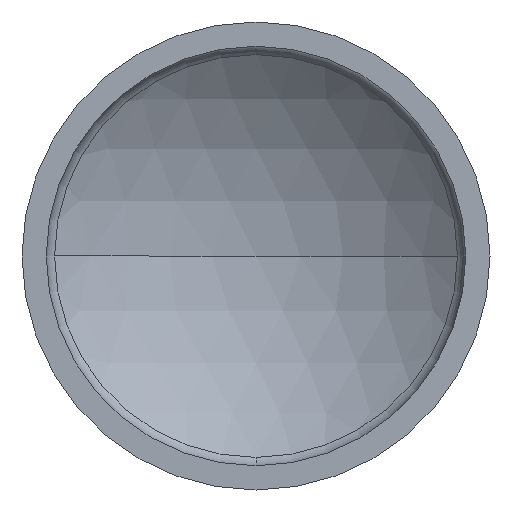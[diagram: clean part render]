
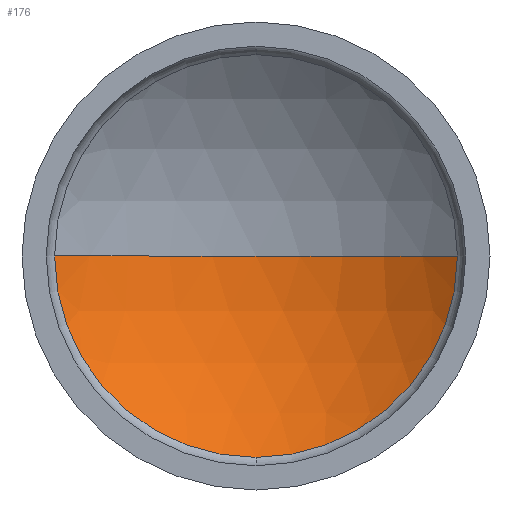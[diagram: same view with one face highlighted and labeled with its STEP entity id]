
A CAD part, front view. The second image highlights one B-rep face of the part: STEP entity #176.
In plain terms, the highlighted spherical face has radius 20.85 mm.
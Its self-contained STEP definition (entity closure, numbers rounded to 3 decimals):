
#27 = ORIENTED_EDGE ( 'NONE', *, *, #333, .T. ) ;
#28 = VERTEX_POINT ( 'NONE', #491 ) ;
#29 = VERTEX_POINT ( 'NONE', #183 ) ;
#40 = AXIS2_PLACEMENT_3D ( 'NONE', #145, #364, #527 ) ;
#48 = ORIENTED_EDGE ( 'NONE', *, *, #210, .T. ) ;
#66 = AXIS2_PLACEMENT_3D ( 'NONE', #408, #152, #405 ) ;
#81 = CARTESIAN_POINT ( 'NONE',  ( 0., -9.8, 0. ) ) ;
#97 = CIRCLE ( 'NONE', #373, 13.683 ) ;
#116 = VERTEX_POINT ( 'NONE', #449 ) ;
#119 = VERTEX_POINT ( 'NONE', #365 ) ;
#131 = EDGE_LOOP ( 'NONE', ( #441, #48, #27, #259 ) ) ;
#145 = CARTESIAN_POINT ( 'NONE',  ( 0., -9.8, 0. ) ) ;
#149 = AXIS2_PLACEMENT_3D ( 'NONE', #257, #378, #151 ) ;
#151 = DIRECTION ( 'NONE',  ( 0., 0., -1. ) ) ;
#152 = DIRECTION ( 'NONE',  ( 0., 0., 1. ) ) ;
#166 = DIRECTION ( 'NONE',  ( 0., -1., 0. ) ) ;
#176 = ADVANCED_FACE ( 'NONE', ( #383 ), #519, .F. ) ;
#183 = CARTESIAN_POINT ( 'NONE',  ( 0., 11.05, 0. ) ) ;
#184 = CIRCLE ( 'NONE', #40, 20.85 ) ;
#194 = AXIS2_PLACEMENT_3D ( 'NONE', #81, #368, #282 ) ;
#206 = DIRECTION ( 'NONE',  ( 0., 0., -1. ) ) ;
#208 = CIRCLE ( 'NONE', #194, 20.85 ) ;
#210 = EDGE_CURVE ( 'NONE', #29, #119, #184, .T. ) ;
#257 = CARTESIAN_POINT ( 'NONE',  ( 0., 5.932, 0. ) ) ;
#259 = ORIENTED_EDGE ( 'NONE', *, *, #476, .T. ) ;
#282 = DIRECTION ( 'NONE',  ( -1., 0., 0. ) ) ;
#316 = EDGE_CURVE ( 'NONE', #29, #116, #208, .T. ) ;
#333 = EDGE_CURVE ( 'NONE', #119, #28, #97, .T. ) ;
#364 = DIRECTION ( 'NONE',  ( 0., 0., 1. ) ) ;
#365 = CARTESIAN_POINT ( 'NONE',  ( -13.683, 5.932, 0. ) ) ;
#368 = DIRECTION ( 'NONE',  ( 0., 0., -1. ) ) ;
#373 = AXIS2_PLACEMENT_3D ( 'NONE', #454, #166, #206 ) ;
#378 = DIRECTION ( 'NONE',  ( 0., -1., 0. ) ) ;
#383 = FACE_OUTER_BOUND ( 'NONE', #131, .T. ) ;
#403 = CIRCLE ( 'NONE', #149, 13.683 ) ;
#405 = DIRECTION ( 'NONE',  ( 1., 0., 0. ) ) ;
#408 = CARTESIAN_POINT ( 'NONE',  ( 0., -9.8, 0. ) ) ;
#441 = ORIENTED_EDGE ( 'NONE', *, *, #316, .F. ) ;
#449 = CARTESIAN_POINT ( 'NONE',  ( 13.683, 5.932, 0. ) ) ;
#454 = CARTESIAN_POINT ( 'NONE',  ( 0., 5.932, 0. ) ) ;
#476 = EDGE_CURVE ( 'NONE', #28, #116, #403, .T. ) ;
#491 = CARTESIAN_POINT ( 'NONE',  ( 0., 5.932, -13.683 ) ) ;
#519 = SPHERICAL_SURFACE ( 'NONE', #66, 20.85 ) ;
#527 = DIRECTION ( 'NONE',  ( 1., 0., 0. ) ) ;
